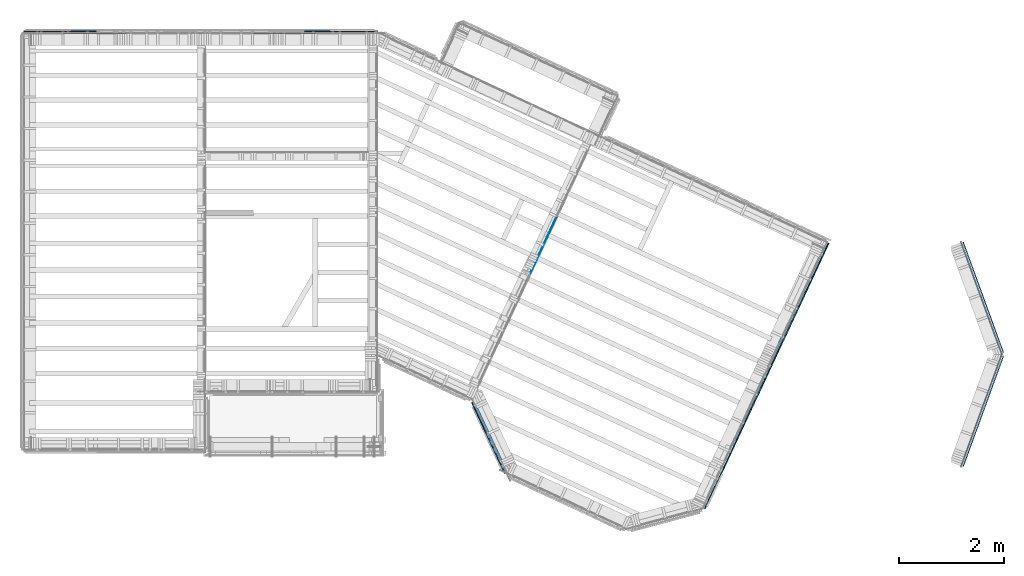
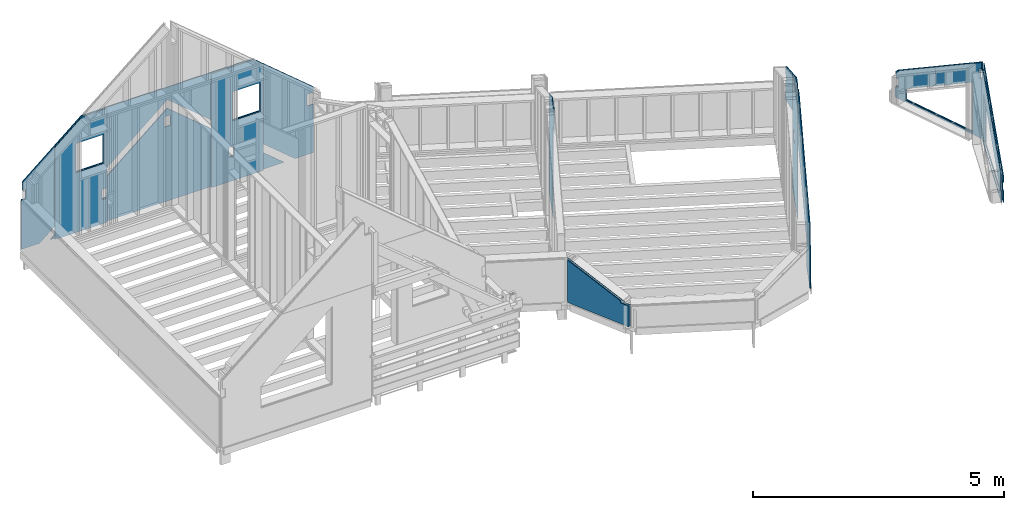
# One storey, part 23 of 24: 15 plates.
"""IFC2X3 building model written with IfcOpenShell, lengths in metres."""

from ifc_helpers import new_model, si_unit, direction, frame, origin_with_axes, place, context, subcontext, project, spatial, faceted_brep, material, element, save


model = new_model("IFC2X3")

# Units and contexts
model_context = context("Model", 3, precision=1e-06, world=origin_with_axes(), true_north=direction((0.0, 1.0, 0.0)))
body_context = subcontext(model_context, "Body", "Model", "MODEL_VIEW")
ifc_project = project(units=[si_unit("LENGTHUNIT", "METRE"), si_unit("AREAUNIT", "SQUARE_METRE"), si_unit("VOLUMEUNIT", "CUBIC_METRE"), si_unit("PLANEANGLEUNIT", "RADIAN")], contexts=[model_context])

# Site, building, storey
site_placement = place(None, origin_with_axes())
site = spatial("IfcSite", under=ifc_project, at=site_placement, CompositionType="ELEMENT")
building_placement = place(site_placement, origin_with_axes())
building = spatial("IfcBuilding", under=site, at=building_placement, Name="Building 1", CompositionType="ELEMENT")
storey_placement = place(building_placement, origin_with_axes())
storey = spatial("IfcBuildingStorey", under=building, at=storey_placement, Name="Premier Etage", CompositionType="ELEMENT", Elevation=0.0)

# Plates
ifc_material_1 = material(Name="Mélèze")
plate_1_placement = place(storey_placement, frame((3.3605712, 7.9435, 2.81), z_axis=(0.0, 1.0, 0.0), x_axis=(0.0, 0.0, 1.0)))
element("IfcPlate", 1, at=plate_1_placement, inside=storey, material=ifc_material_1, Name="Bardage", context=body_context, shape_type="Brep", body=[
    faceted_brep([(1.6262817, -3.3455712, 0.0105), (1.4228151, -3.3455712, 0.0105), (1.4228151, -3.3455712, -0.0105), (1.6262817, -3.3455712, -0.0105), (1.4228151, -3.2755712, -0.0105), (1.2078151, -3.2755712, -0.0105), (1.2078151, -3.3605712, -0.0105), (0.0, -3.3605712, -0.0105), (0.0, -2.9462271, -0.0105), (2.4666642, -0.0065712, -0.0105), (0.0, 2.9330847, -0.0105), (0.0, 3.3605712, -0.0105), (1.1810549, 3.3605712, -0.0105), (1.1810549, 3.2054288, -0.0105), (1.4710549, 3.2054288, -0.0105), (1.4710549, 3.3605712, -0.0105), (1.602531, 3.3605712, -0.0105), (2.7704713, 1.9686741, -0.0105), (2.7704713, -1.9819791, -0.0105), (1.453, -2.1290712, -0.0105), (2.161, -2.1290712, -0.0105), (2.161, -1.4890712, -0.0105), (1.453, -1.4890712, -0.0105), (1.453, 1.4759288, -0.0105), (2.161, 1.4759288, -0.0105), (2.161, 2.1159288, -0.0105), (1.453, 2.1159288, -0.0105), (1.4228151, -3.2755712, 0.0105), (1.1810549, 3.3605712, 0.0105), (1.1810549, 3.2054288, 0.0105), (1.4710549, 3.2054288, 0.0105), (1.4710549, 3.3605712, 0.0105), (2.7704713, -1.9819791, 0.0105), (2.7704713, 1.9686741, 0.0105), (1.602531, 3.3605712, 0.0105), (0.0, 3.3605712, 0.0105), (0.0, 2.9330847, 0.0105), (2.4666642, -0.0065712, 0.0105), (0.0, -2.9462271, 0.0105), (0.0, -3.3605712, 0.0105), (1.2078151, -3.3605712, 0.0105), (1.2078151, -3.2755712, 0.0105), (2.161, 1.4759288, 0.0105), (1.453, 1.4759288, 0.0105), (1.453, 2.1159288, 0.0105), (2.161, 2.1159288, 0.0105), (2.161, -2.1290712, 0.0105), (1.453, -2.1290712, 0.0105), (1.453, -1.4890712, 0.0105), (2.161, -1.4890712, 0.0105)], [[[0, 1, 2, 3]], [[3, 2, 4, 5, 6, 7, 8, 9, 10, 11, 12, 13, 14, 15, 16, 17, 18], [19, 20, 21, 22], [23, 24, 25, 26]], [[2, 1, 27, 4]], [[28, 29, 13, 12]], [[29, 30, 14, 13]], [[30, 31, 15, 14]], [[1, 0, 32, 33, 34, 31, 30, 29, 28, 35, 36, 37, 38, 39, 40, 41, 27], [42, 43, 44, 45], [46, 47, 48, 49]], [[28, 12, 11, 35]], [[27, 41, 5, 4]], [[41, 40, 6, 5]], [[21, 20, 46, 49]], [[19, 22, 48, 47]], [[22, 21, 49, 48]], [[20, 19, 47, 46]], [[6, 40, 39, 7]], [[32, 18, 17, 33]], [[16, 34, 33, 17]], [[0, 3, 18, 32]], [[15, 31, 34, 16]], [[38, 8, 7, 39]], [[10, 36, 35, 11]], [[37, 36, 10, 9]], [[38, 37, 9, 8]], [[25, 24, 42, 45]], [[23, 26, 44, 43]], [[26, 25, 45, 44]], [[24, 23, 43, 42]]]),
])
ifc_material_2 = material(Name="OSB")
plate_2_placement = place(storey_placement, frame((9.8693247, 3.8851787, 2.81), z_axis=(0.9063078, -0.4226183, 0.0), x_axis=(0.0, 0.0, 1.0)))
element("IfcPlate", 2, at=plate_2_placement, inside=storey, material=ifc_material_2, Name="Panneau de contreventement MFP", context=body_context, shape_type="Brep", body=[
    faceted_brep([(2.7043053, 0.2699613, -0.006), (2.7043053, 0.4749613, -0.006), (2.7043053, 0.4749613, 0.006), (2.7043053, 0.2699613, 0.006), (2.8, 0.2699613, -0.006), (2.8, 0.2699613, 0.006), (2.8, 0.4749613, -0.006), (2.8, 0.4749613, 0.006), (2.8, 0.1390148, -0.006), (2.3744843, -0.598, -0.006), (0.0, -0.598, -0.006), (0.0, 0.3599613, -0.006), (2.251, 0.3599613, -0.006), (2.251, 0.598, -0.006), (2.8, 0.598, -0.006), (2.8, 0.1390148, 0.006), (2.8, 0.598, 0.006), (2.251, 0.598, 0.006), (2.251, 0.3599613, 0.006), (0.0, 0.3599613, 0.006), (0.0, -0.598, 0.006), (2.3744843, -0.598, 0.006)], [[[0, 1, 2, 3]], [[4, 0, 3, 5]], [[1, 6, 7, 2]], [[6, 1, 0, 4, 8, 9, 10, 11, 12, 13, 14]], [[4, 5, 15, 8]], [[5, 3, 2, 7, 16, 17, 18, 19, 20, 21, 15]], [[17, 13, 12, 18]], [[11, 19, 18, 12]], [[10, 20, 19, 11]], [[13, 17, 16, 14]], [[7, 6, 14, 16]], [[21, 9, 8, 15]], [[9, 21, 20, 10]]]),
])
plate_3_placement = place(storey_placement, frame((1.3431423, 7.902, 2.81), z_axis=(0.0, 1.0, 0.0), x_axis=(0.0, 0.0, 1.0)))
element("IfcPlate", 3, at=plate_3_placement, inside=storey, material=ifc_material_2, Name="Panneau de contreventement MFP", context=body_context, shape_type="Brep", body=[
    faceted_brep([(0.835661, 0.4833576, -0.006), (0.585661, 0.4833576, -0.006), (0.585661, 0.4833576, 0.006), (0.835661, 0.4833576, 0.006), (0.835661, 0.598, 0.006), (0.585661, 0.598, 0.006), (0.0, 0.598, 0.006), (0.0, -0.598, 0.006), (2.2389439, -0.598, 0.006), (2.7704713, 0.0354497, 0.006), (2.7704713, 0.598, 0.006), (2.161, -0.1116424, 0.006), (1.453, -0.1116424, 0.006), (1.453, 0.5283576, 0.006), (2.161, 0.5283576, 0.006), (0.585661, 0.598, -0.006), (0.0, 0.598, -0.006), (0.835661, 0.598, -0.006), (2.7704713, 0.598, -0.006), (2.7704713, 0.0354497, -0.006), (2.2389439, -0.598, -0.006), (0.0, -0.598, -0.006), (1.453, -0.1116424, -0.006), (2.161, -0.1116424, -0.006), (2.161, 0.5283576, -0.006), (1.453, 0.5283576, -0.006)], [[[0, 1, 2, 3]], [[4, 3, 2, 5, 6, 7, 8, 9, 10], [11, 12, 13, 14]], [[5, 15, 16, 6]], [[1, 15, 5, 2]], [[0, 17, 18, 19, 20, 21, 16, 15, 1], [22, 23, 24, 25]], [[13, 12, 22, 25]], [[11, 14, 24, 23]], [[14, 13, 25, 24]], [[12, 11, 23, 22]], [[17, 0, 3, 4]], [[17, 4, 10, 18]], [[18, 10, 9, 19]], [[8, 20, 19, 9]], [[21, 7, 6, 16]], [[20, 8, 7, 21]]]),
])
plate_4_placement = place(storey_placement, frame((18.3672747, 2.3737682, 2.715), z_axis=(0.9396926, 0.3420201, 0.0), x_axis=(0.0, 0.0, 1.0)))
element("IfcPlate", 4, at=plate_4_placement, inside=storey, material=ifc_material_2, Name="Panneau de contreventement MFP", context=body_context, shape_type="Brep", body=[
    faceted_brep([(1.6853223, 0.5288284, -0.006), (1.4403223, 0.5288284, -0.006), (1.4403223, 0.5288284, 0.006), (1.6853223, 0.5288284, 0.006), (1.6853223, 0.598, -0.006), (1.6853223, 0.598, 0.006), (1.8531083, 0.598, 0.006), (1.8531083, 0.598, -0.006), (1.4403223, 0.598, 0.006), (0.0, 0.598, 0.006), (0.0, -0.598, 0.006), (0.04, -0.598, 0.006), (0.04, 0.363, 0.006), (1.2668493, 0.363, 0.006), (0.7454762, -0.598, 0.006), (1.2042403, -0.598, 0.006), (1.4403223, 0.598, -0.006), (0.0, 0.598, -0.006), (1.2042403, -0.598, -0.006), (0.7454762, -0.598, -0.006), (1.2668493, 0.363, -0.006), (0.04, 0.363, -0.006), (0.04, -0.598, -0.006), (0.0, -0.598, -0.006)], [[[0, 1, 2, 3]], [[4, 0, 3, 5]], [[4, 5, 6, 7]], [[5, 3, 2, 8, 9, 10, 11, 12, 13, 14, 15, 6]], [[8, 2, 1, 16]], [[8, 16, 17, 9]], [[0, 4, 7, 18, 19, 20, 21, 22, 23, 17, 16, 1]], [[13, 12, 21, 20]], [[14, 13, 20, 19]], [[12, 11, 22, 21]], [[14, 19, 18, 15]], [[15, 18, 7, 6]], [[23, 10, 9, 17]], [[22, 11, 10, 23]]]),
])
plate_5_placement = place(storey_placement, frame((14.109874, 1.4028838, 2.81), z_axis=(0.9063078, -0.4226183, 0.0), x_axis=(0.0, 0.0, 1.0)))
element("IfcPlate", 5, at=plate_5_placement, inside=storey, material=ifc_material_1, Name="Bardage", context=body_context, shape_type="Brep", body=[
    faceted_brep([(1.5557344, -2.7676012, 0.0105), (1.3910549, -2.7676012, 0.0105), (1.3910549, -2.7676012, -0.0105), (1.5557344, -2.7676012, -0.0105), (1.3910549, -2.6976012, -0.0105), (1.1760549, -2.6976012, -0.0105), (1.1760549, -2.7826012, -0.0105), (0.7293711, -2.7826012, -0.0105), (1.9476592, -0.4543227, -0.0105), (0.6774964, 1.9730939, -0.0105), (0.0, 1.9730939, -0.0105), (0.0, 2.7826012, -0.0105), (1.0436408, 2.7826012, -0.0105), (1.0436408, 2.6824104, -0.0105), (1.2986408, 2.6824104, -0.0105), (1.2986408, 2.7450172, -0.0105), (1.470415, 2.7450172, -0.0105), (2.9293053, 0.218145, -0.0105), (2.9293053, 0.0028716, -0.0105), (2.6893053, 0.0028716, -0.0105), (2.6893053, -0.1731284, -0.0105), (2.9293053, -0.1731284, -0.0105), (2.9293053, -0.3885066, -0.0105), (1.3910549, -2.6976012, 0.0105), (1.2986408, 2.7450172, 0.0105), (1.470415, 2.7450172, 0.0105), (2.9293053, 0.218145, 0.0105), (2.9293053, -0.3885066, 0.0105), (2.9293053, -0.1731284, 0.0105), (2.6893053, -0.1731284, 0.0105), (2.6893053, 0.0028716, 0.0105), (2.9293053, 0.0028716, 0.0105), (1.2986408, 2.6824104, 0.0105), (1.0436408, 2.6824104, 0.0105), (1.0436408, 2.7826012, 0.0105), (0.0, 2.7826012, 0.0105), (0.0, 1.9730939, 0.0105), (0.6774964, 1.9730939, 0.0105), (1.9476592, -0.4543227, 0.0105), (0.7293711, -2.7826012, 0.0105), (1.1760549, -2.7826012, 0.0105), (1.1760549, -2.6976012, 0.0105)], [[[0, 1, 2, 3]], [[3, 2, 4, 5, 6, 7, 8, 9, 10, 11, 12, 13, 14, 15, 16, 17, 18, 19, 20, 21, 22]], [[2, 1, 23, 4]], [[16, 15, 24, 25]], [[16, 25, 26, 17]], [[1, 0, 27, 28, 29, 30, 31, 26, 25, 24, 32, 33, 34, 35, 36, 37, 38, 39, 40, 41, 23]], [[24, 15, 14, 32]], [[5, 4, 23, 41]], [[31, 30, 19, 18]], [[30, 29, 20, 19]], [[29, 28, 21, 20]], [[21, 28, 27, 22]], [[31, 18, 17, 26]], [[13, 12, 34, 33]], [[33, 32, 14, 13]], [[34, 12, 11, 35]], [[41, 40, 6, 5]], [[10, 9, 37, 36]], [[8, 7, 39, 38]], [[9, 8, 38, 37]], [[10, 36, 35, 11]], [[0, 3, 22, 27]], [[6, 40, 39, 7]]]),
])
plate_6_placement = place(storey_placement, frame((14.1569544, 1.6020455, 2.81), z_axis=(0.9063078, -0.4226183, 0.0), x_axis=(0.0, 0.0, 1.0)))
element("IfcPlate", 6, at=plate_6_placement, inside=storey, material=ifc_material_2, Name="Panneau de contreventement MFP", context=body_context, shape_type="Brep", body=[
    faceted_brep([(2.7610704, 0.2032704, 0.006), (2.6893053, 0.2032704, 0.006), (2.6893053, 0.2032704, -0.006), (2.7610704, 0.2032704, -0.006), (2.6893053, 0.0272704, 0.006), (2.6893053, 0.0272704, -0.006), (2.7610704, 0.0272704, 0.006), (2.7610704, 0.0272704, -0.006), (2.7610704, -0.4794992, -0.006), (2.6926539, -0.598, -0.006), (0.0, -0.598, -0.006), (0.0, 0.598, -0.006), (2.7610704, 0.598, -0.006), (1.6030771, -0.1546921, -0.006), (1.3453223, -0.1546921, -0.006), (1.3453223, -0.303727, -0.006), (1.6030771, -0.303727, -0.006), (2.7610704, -0.4794992, 0.006), (2.7610704, 0.598, 0.006), (0.0, 0.598, 0.006), (0.0, -0.598, 0.006), (2.6926539, -0.598, 0.006), (1.6030771, -0.303727, 0.006), (1.3453223, -0.303727, 0.006), (1.3453223, -0.1546921, 0.006), (1.6030771, -0.1546921, 0.006)], [[[0, 1, 2, 3]], [[1, 4, 5, 2]], [[4, 6, 7, 5]], [[3, 2, 5, 7, 8, 9, 10, 11, 12], [13, 14, 15, 16]], [[7, 6, 17, 8]], [[0, 3, 12, 18]], [[1, 0, 18, 19, 20, 21, 17, 6, 4], [22, 23, 24, 25]], [[18, 12, 11, 19]], [[14, 13, 25, 24]], [[23, 22, 16, 15]], [[13, 16, 22, 25]], [[15, 14, 24, 23]], [[8, 17, 21, 9]], [[10, 20, 19, 11]], [[9, 21, 20, 10]]]),
])
plate_7_placement = place(storey_placement, frame((18.3915704, 1.3125433, 2.715), z_axis=(0.9396926, -0.3420201, 0.0), x_axis=(0.0, 0.0, 1.0)))
element("IfcPlate", 7, at=plate_7_placement, inside=storey, material=ifc_material_2, Name="Panneau de contreventement MFP", context=body_context, shape_type="Brep", body=[
    faceted_brep([(1.6853223, -0.5269642, 0.006), (1.6853223, -0.4577927, 0.006), (1.6853223, -0.4577927, -0.006), (1.6853223, -0.5269642, -0.006), (1.4403223, -0.4577927, 0.006), (1.4403223, -0.4577927, -0.006), (1.8531082, -0.5269642, -0.006), (1.8531082, -0.5269642, 0.006), (1.4403223, -0.5269642, -0.006), (0.0, -0.5269642, -0.006), (0.0, 0.5269642, -0.006), (0.04, 0.5269642, -0.006), (0.04, -0.2919642, -0.006), (1.2668493, -0.2919642, -0.006), (0.8225546, 0.5269642, -0.006), (1.2813185, 0.5269642, -0.006), (1.4403223, -0.5269642, 0.006), (0.0, -0.5269642, 0.006), (0.04, 0.5269642, 0.006), (0.04, -0.2919642, 0.006), (1.2668493, -0.2919642, 0.006), (0.8225546, 0.5269642, 0.006), (1.2813185, 0.5269642, 0.006), (0.0, 0.5269642, 0.006)], [[[0, 1, 2, 3]], [[1, 4, 5, 2]], [[0, 3, 6, 7]], [[3, 2, 5, 8, 9, 10, 11, 12, 13, 14, 15, 6]], [[8, 5, 4, 16]], [[8, 16, 17, 9]], [[18, 19, 12, 11]], [[20, 21, 14, 13]], [[19, 20, 13, 12]], [[14, 21, 22, 15]], [[18, 11, 10, 23]], [[23, 10, 9, 17]], [[15, 22, 7, 6]], [[1, 0, 7, 22, 21, 20, 19, 18, 23, 17, 16, 4]]]),
])
plate_8_placement = place(storey_placement, frame((3.354, 7.9435, 2.81), z_axis=(0.0, 1.0, 0.0), x_axis=(0.0, 0.0, 1.0)))
element("IfcPlate", 8, at=plate_8_placement, inside=storey, material=ifc_material_1, Name="Bardage", context=body_context, shape_type="Brep", body=[
    faceted_brep([(2.0707465, 0.0675, 0.0105), (1.8207465, 0.0675, 0.0105), (1.8207465, 0.0675, -0.0105), (2.0707465, 0.0675, -0.0105), (2.257799, 0.0, -0.0105), (0.0, -2.6907401, -0.0105), (0.0, 2.6907401, -0.0105), (0.585661, 1.3925, -0.0105), (0.835661, 1.3925, -0.0105), (0.835661, 1.5275, -0.0105), (0.585661, 1.5275, -0.0105), (1.8207465, -0.0675, -0.0105), (2.0707465, -0.0675, -0.0105), (0.585661, -1.5275, -0.0105), (0.835661, -1.5275, -0.0105), (0.835661, -1.3925, -0.0105), (0.585661, -1.3925, -0.0105), (1.8207465, -0.0675, 0.0105), (2.0707465, -0.0675, 0.0105), (0.0, -2.6907401, 0.0105), (2.257799, 0.0, 0.0105), (0.0, 2.6907401, 0.0105), (0.835661, 1.3925, 0.0105), (0.585661, 1.3925, 0.0105), (0.585661, 1.5275, 0.0105), (0.835661, 1.5275, 0.0105), (0.835661, -1.5275, 0.0105), (0.585661, -1.5275, 0.0105), (0.585661, -1.3925, 0.0105), (0.835661, -1.3925, 0.0105)], [[[0, 1, 2, 3]], [[4, 5, 6], [7, 8, 9, 10], [11, 12, 3, 2], [13, 14, 15, 16]], [[17, 18, 12, 11]], [[1, 17, 11, 2]], [[19, 20, 21], [22, 23, 24, 25], [18, 17, 1, 0], [26, 27, 28, 29]], [[22, 25, 9, 8]], [[24, 23, 7, 10]], [[25, 24, 10, 9]], [[29, 28, 16, 15]], [[27, 26, 14, 13]], [[28, 27, 13, 16]], [[18, 0, 3, 12]], [[26, 29, 15, 14]], [[20, 19, 5, 4]], [[4, 6, 21, 20]], [[5, 19, 21, 6]], [[23, 22, 8, 7]]]),
])
plate_9_placement = place(storey_placement, frame((18.2231089, 0.7283613, 2.715), z_axis=(0.9396926, -0.3420201, 0.0), x_axis=(0.0, 0.0, 1.0)))
element("IfcPlate", 9, at=plate_9_placement, inside=storey, material=ifc_material_1, Name="Bardage", context=body_context, shape_type="Brep", body=[
    faceted_brep([(0.6434654, 1.0960927, -0.0105), (0.47, 1.0960927, -0.0105), (0.47, 1.0960927, 0.0105), (0.6434654, 1.0960927, 0.0105), (1.8459807, -1.1203954, 0.0105), (1.8459807, -1.1203954, -0.0105), (0.47, 1.0303954, 0.0105), (0.265, 1.0303954, 0.0105), (0.265, 1.1203954, 0.0105), (0.0, 1.1203954, 0.0105), (0.0, -1.1203954, 0.0105), (1.4403223, -1.1203954, 0.0105), (1.4403223, -1.0778284, 0.0105), (1.6853223, -1.0778284, 0.0105), (1.6853223, -1.1203954, 0.0105), (0.318, 0.8503954, 0.0105), (1.2668493, -0.898533, 0.0105), (0.04, -0.898533, 0.0105), (0.04, 0.8503954, 0.0105), (0.47, 1.0303954, -0.0105), (0.265, 1.0303954, -0.0105), (0.265, 1.1203954, -0.0105), (1.6853223, -1.1203954, -0.0105), (1.6853223, -1.0778284, -0.0105), (1.4403223, -1.0778284, -0.0105), (1.4403223, -1.1203954, -0.0105), (0.0, -1.1203954, -0.0105), (0.0, 1.1203954, -0.0105), (1.2668493, -0.898533, -0.0105), (0.318, 0.8503954, -0.0105), (0.04, 0.8503954, -0.0105), (0.04, -0.898533, -0.0105)], [[[0, 1, 2, 3]], [[0, 3, 4, 5]], [[3, 2, 6, 7, 8, 9, 10, 11, 12, 13, 14, 4], [15, 16, 17, 18]], [[2, 1, 19, 6]], [[20, 21, 8, 7]], [[19, 20, 7, 6]], [[1, 0, 5, 22, 23, 24, 25, 26, 27, 21, 20, 19], [28, 29, 30, 31]], [[13, 12, 24, 23]], [[14, 13, 23, 22]], [[14, 22, 5, 4]], [[12, 11, 25, 24]], [[25, 11, 10, 26]], [[31, 30, 18, 17]], [[28, 31, 17, 16]], [[29, 28, 16, 15]], [[30, 29, 15, 18]], [[26, 10, 9, 27]], [[8, 21, 27, 9]]]),
])
plate_10_placement = place(storey_placement, frame((4.9431423, 7.902, 2.81), z_axis=(0.0, 1.0, 0.0), x_axis=(0.0, 0.0, 1.0)))
element("IfcPlate", 10, at=plate_10_placement, inside=storey, material=ifc_material_2, Name="Panneau de contreventement MFP", context=body_context, shape_type="Brep", body=[
    faceted_brep([(0.835661, -0.1966424, 0.006), (0.835661, -0.0616424, 0.006), (0.835661, -0.0616424, -0.006), (0.835661, -0.1966424, -0.006), (2.7704713, -0.598, -0.006), (0.0, -0.598, -0.006), (0.0, 0.598, -0.006), (2.5926685, 0.598, -0.006), (2.7704713, 0.3861029, -0.006), (0.585661, -0.1966424, -0.006), (0.585661, -0.0616424, -0.006), (1.453, -0.1066424, -0.006), (2.161, -0.1066424, -0.006), (2.161, 0.5333576, -0.006), (1.453, 0.5333576, -0.006), (0.585661, -0.0616424, 0.006), (0.585661, -0.1966424, 0.006), (0.0, -0.598, 0.006), (2.7704713, -0.598, 0.006), (2.7704713, 0.3861029, 0.006), (2.5926685, 0.598, 0.006), (0.0, 0.598, 0.006), (2.161, -0.1066424, 0.006), (1.453, -0.1066424, 0.006), (1.453, 0.5333576, 0.006), (2.161, 0.5333576, 0.006)], [[[0, 1, 2, 3]], [[4, 5, 6, 7, 8], [9, 3, 2, 10], [11, 12, 13, 14]], [[15, 16, 9, 10]], [[1, 15, 10, 2]], [[17, 18, 19, 20, 21], [0, 16, 15, 1], [22, 23, 24, 25]], [[7, 20, 19, 8]], [[5, 17, 21, 6]], [[20, 7, 6, 21]], [[18, 4, 8, 19]], [[4, 18, 17, 5]], [[24, 23, 11, 14]], [[22, 25, 13, 12]], [[25, 24, 14, 13]], [[23, 22, 12, 11]], [[16, 0, 3, 9]]]),
])
plate_11_placement = place(storey_placement, frame((9.183817, -0.4497749, 3.3343204), z_axis=(-0.9063078, -0.4226183, 0.0), x_axis=(-0.4226183, 0.9063078, 0.0)))
element("IfcPlate", 11, at=plate_11_placement, inside=storey, material=ifc_material_2, Name="Panneau de contreventement MFP", context=body_context, shape_type="Brep", body=[
    faceted_brep([(1.5333114, -0.5243204, 0.006), (1.5333114, -0.5243204, -0.006), (1.5449995, -0.5243204, -0.006), (1.5449995, -0.5243204, 0.006), (1.5449995, 0.5243204, -0.006), (1.5449995, 0.5243204, 0.006), (0.1414133, -0.0077681, -0.006), (0.1414133, 0.0106708, -0.006), (0.0, 0.0106708, -0.006), (0.0, 0.5243204, -0.006), (0.1414133, -0.0077681, 0.006), (0.1414133, 0.0106708, 0.006), (0.0, 0.5243204, 0.006), (0.0, 0.0106708, 0.006)], [[[0, 1, 2, 3]], [[3, 2, 4, 5]], [[1, 6, 7, 8, 9, 4, 2]], [[6, 10, 11, 7]], [[10, 0, 3, 5, 12, 13, 11]], [[0, 10, 6, 1]], [[12, 5, 4, 9]], [[11, 13, 8, 7]], [[8, 13, 12, 9]]]),
])
plate_12_placement = place(storey_placement, frame((8.8264403, 0.2184247, 2.81), z_axis=(-0.9063078, -0.4226183, 0.0), x_axis=(0.0, 0.0, 1.0)))
element("IfcPlate", 12, at=plate_12_placement, inside=storey, material=ifc_material_1, Name="Bardage", context=body_context, shape_type="Brep", body=[
    faceted_brep([(0.5086496, -0.7466284, -0.0105), (0.5086496, -0.5428244, -0.0105), (0.5086496, -0.5428244, 0.0105), (0.5086496, -0.7466284, 0.0105), (0.5536205, -0.5428244, -0.0105), (0.5536205, -0.5428244, 0.0105), (0.0, -0.7466284, -0.0105), (0.0, 0.7466284, -0.0105), (1.032154, 0.7466284, -0.0105), (0.0, -0.7466284, 0.0105), (1.032154, 0.7466284, 0.0105), (0.0, 0.7466284, 0.0105)], [[[0, 1, 2, 3]], [[1, 4, 5, 2]], [[4, 1, 0, 6, 7, 8]], [[0, 3, 9, 6]], [[3, 2, 5, 10, 11, 9]], [[5, 4, 8, 10]], [[10, 8, 7, 11]], [[6, 9, 11, 7]]]),
])
plate_13_placement = place(storey_placement, frame((18.0054419, 0.251664, 2.715), z_axis=(0.9396926, -0.3420201, 0.0), x_axis=(0.0, 0.0, 1.0)))
element("IfcPlate", 13, at=plate_13_placement, inside=storey, material=ifc_material_2, Name="Panneau de contreventement MFP", context=body_context, shape_type="Brep", body=[
    faceted_brep([(0.6436629, 0.5733333, -0.006), (0.47, 0.5733333, -0.006), (0.47, 0.5733333, 0.006), (0.6436629, 0.5733333, 0.006), (0.47, 0.508, 0.006), (0.265, 0.508, 0.006), (0.265, 0.598, 0.006), (0.0, 0.598, 0.006), (0.0, -0.598, 0.006), (0.04, -0.598, 0.006), (0.04, 0.328, 0.006), (0.318, 0.328, 0.006), (0.8203844, -0.598, 0.006), (1.2791484, -0.598, 0.006), (0.47, 0.508, -0.006), (0.265, 0.508, -0.006), (0.265, 0.598, -0.006), (1.2791484, -0.598, -0.006), (0.8203844, -0.598, -0.006), (0.318, 0.328, -0.006), (0.04, 0.328, -0.006), (0.04, -0.598, -0.006), (0.0, -0.598, -0.006), (0.0, 0.598, -0.006)], [[[0, 1, 2, 3]], [[3, 2, 4, 5, 6, 7, 8, 9, 10, 11, 12, 13]], [[2, 1, 14, 4]], [[15, 16, 6, 5]], [[1, 0, 17, 18, 19, 20, 21, 22, 23, 16, 15, 14]], [[5, 4, 14, 15]], [[12, 11, 19, 18]], [[11, 10, 20, 19]], [[10, 9, 21, 20]], [[21, 9, 8, 22]], [[12, 18, 17, 13]], [[6, 16, 23, 7]], [[0, 3, 13, 17]], [[22, 8, 7, 23]]]),
])
plate_14_placement = place(storey_placement, frame((17.9811462, 3.4346476, 2.715), z_axis=(0.9396926, 0.3420201, 0.0), x_axis=(0.0, 0.0, 1.0)))
element("IfcPlate", 14, at=plate_14_placement, inside=storey, material=ifc_material_2, Name="Panneau de contreventement MFP", context=body_context, shape_type="Brep", body=[
    faceted_brep([(0.47, -0.5022975, 0.006), (0.47, -0.5022975, -0.006), (0.6436629, -0.5022975, -0.006), (0.6436629, -0.5022975, 0.006), (1.2020701, 0.5269643, -0.006), (1.2020701, 0.5269643, 0.006), (0.47, -0.4369643, -0.006), (0.465, -0.4369643, -0.006), (0.265, -0.4369643, -0.006), (0.265, -0.5269643, -0.006), (0.0, -0.5269642, -0.006), (0.0, 0.5269642, -0.006), (0.04, 0.5269642, -0.006), (0.04, -0.2569641, -0.006), (0.318, -0.2569641, -0.006), (0.7433061, 0.5269643, -0.006), (0.47, -0.4369643, 0.006), (0.465, -0.4369643, 0.006), (0.265, -0.4369643, 0.006), (0.265, -0.5269643, 0.006), (0.0, -0.5269642, 0.006), (0.04, 0.5269642, 0.006), (0.04, -0.2569641, 0.006), (0.318, -0.2569641, 0.006), (0.7433061, 0.5269643, 0.006), (0.0, 0.5269642, 0.006)], [[[0, 1, 2, 3]], [[3, 2, 4, 5]], [[2, 1, 6, 7, 8, 9, 10, 11, 12, 13, 14, 15, 4]], [[1, 0, 16, 6]], [[16, 17, 7, 6]], [[9, 8, 18, 19]], [[8, 7, 17, 18]], [[9, 19, 20, 10]], [[21, 22, 13, 12]], [[23, 24, 15, 14]], [[22, 23, 14, 13]], [[15, 24, 5, 4]], [[21, 12, 11, 25]], [[25, 11, 10, 20]], [[0, 3, 5, 24, 23, 22, 21, 25, 20, 19, 18, 17, 16]]]),
])
plate_15_placement = place(storey_placement, frame((18.2231089, 2.8911985, 2.715), z_axis=(0.9396926, 0.3420201, 0.0), x_axis=(0.0, 0.0, 1.0)))
element("IfcPlate", 15, at=plate_15_placement, inside=storey, material=ifc_material_1, Name="Bardage", context=body_context, shape_type="Brep", body=[
    faceted_brep([(0.47, -1.0960927, -0.0105), (0.6434654, -1.0960927, -0.0105), (0.6434654, -1.0960927, 0.0105), (0.47, -1.0960927, 0.0105), (0.47, -1.0303955, 0.0105), (0.47, -1.0303955, -0.0105), (1.8459807, 1.1203955, -0.0105), (1.8459807, 1.1203955, 0.0105), (0.465, -1.0303955, -0.0105), (0.265, -1.0303955, -0.0105), (0.265, -1.1203955, -0.0105), (0.0, -1.1203954, -0.0105), (0.0, 1.1203954, -0.0105), (1.4403223, 1.1203955, -0.0105), (1.4403223, 1.0778284, -0.0105), (1.6853223, 1.0778284, -0.0105), (1.6853223, 1.1203955, -0.0105), (0.318, -0.8503953, -0.0105), (1.2668493, 0.8985331, -0.0105), (0.04, 0.8985331, -0.0105), (0.04, -0.8503953, -0.0105), (0.465, -1.0303955, 0.0105), (1.6853223, 1.0778284, 0.0105), (1.6853223, 1.1203955, 0.0105), (1.4403223, 1.0778284, 0.0105), (1.4403223, 1.1203955, 0.0105), (0.0, 1.1203954, 0.0105), (0.0, -1.1203954, 0.0105), (0.265, -1.1203955, 0.0105), (0.265, -1.0303955, 0.0105), (1.2668493, 0.8985331, 0.0105), (0.318, -0.8503953, 0.0105), (0.04, -0.8503953, 0.0105), (0.04, 0.8985331, 0.0105)], [[[0, 1, 2, 3]], [[0, 3, 4, 5]], [[2, 1, 6, 7]], [[1, 0, 5, 8, 9, 10, 11, 12, 13, 14, 15, 16, 6], [17, 18, 19, 20]], [[8, 5, 4, 21]], [[16, 15, 22, 23]], [[15, 14, 24, 22]], [[16, 23, 7, 6]], [[3, 2, 7, 23, 22, 24, 25, 26, 27, 28, 29, 21, 4], [30, 31, 32, 33]], [[14, 13, 25, 24]], [[9, 8, 21, 29]], [[10, 9, 29, 28]], [[10, 28, 27, 11]], [[25, 13, 12, 26]], [[26, 12, 11, 27]], [[20, 19, 33, 32]], [[17, 20, 32, 31]], [[18, 17, 31, 30]], [[19, 18, 30, 33]]]),
])

save(model, "model.ifc")
